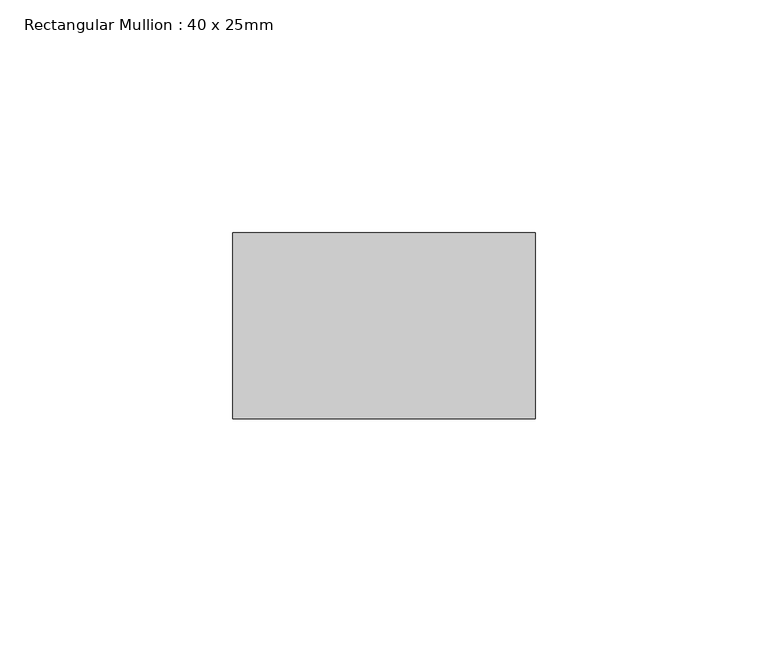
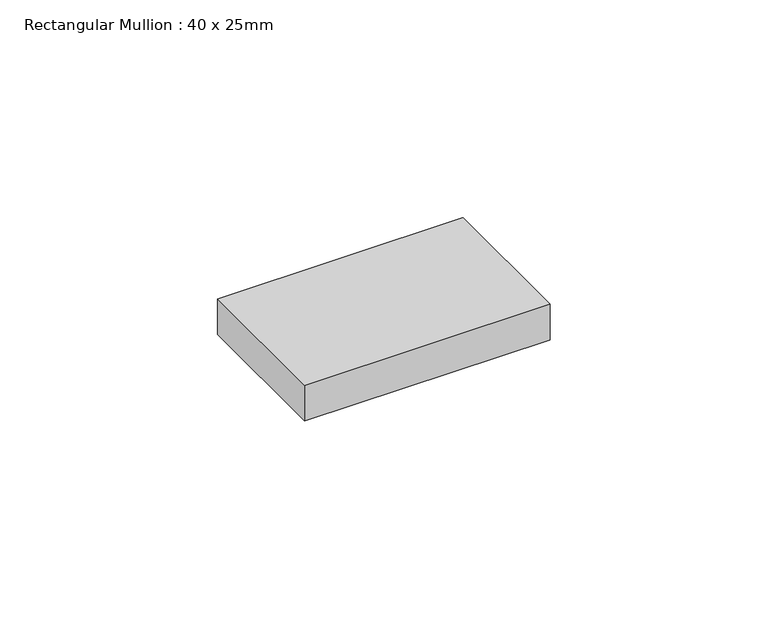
"""IFC4 building model written with IfcOpenShell, lengths in millimetres: member geometry, Rectangular Mullion : 40 x 25mm."""

from ifc_helpers import new_model, si_unit, frame, origin, place, context, project, spatial, polyline, outline, extrude, source, transform, mapped, element, save


def rectangular_mullion_40_x_25mm_d9dfbffd(model_context):
    return source(origin(), model_context, "Body", "SweptSolid", [
        extrude(outline(polyline([(0.0, -20.0), (0.0, -60.0), (-65.0, -60.0), (-65.0, -20.0), (0.0, -20.0)])), frame((0.0, 0.0, -10.0), z_axis=(0.0, 0.0, 1.0), x_axis=(1.0, 0.0, 0.0)), (0.0, 0.0, 1.0), 10.0),
    ])


if __name__ == "__main__":
    model = new_model("IFC4")
    model_context = context("Model", 3, world=origin())
    ifc_project = project(units=[si_unit("LENGTHUNIT", "METRE", prefix="MILLI")], contexts=[model_context])
    site = spatial("IfcSite", under=ifc_project)
    building = spatial("IfcBuilding", under=site)
    placement = place(None, origin())
    rectangular_mullion_40_x_25mm_shape = rectangular_mullion_40_x_25mm_d9dfbffd(model_context)
    element("IfcMember", 1, ObjectType="Rectangular Mullion : 40 x 25mm", at=placement, inside=building, context=model_context, shape_type="MappedRepresentation", body=[
        mapped(rectangular_mullion_40_x_25mm_shape, transform((0.0, 0.0, 0.0), x_axis=(1.0, 0.0, 0.0), y_axis=(0.0, 1.0, 0.0), z_axis=(0.0, 0.0, 1.0))),
    ])
    save(model, "model.ifc")
